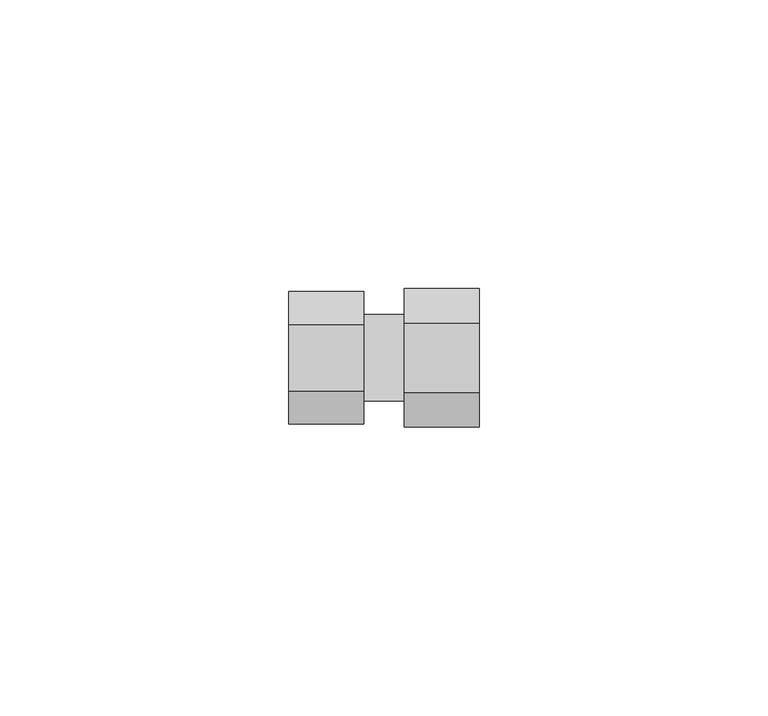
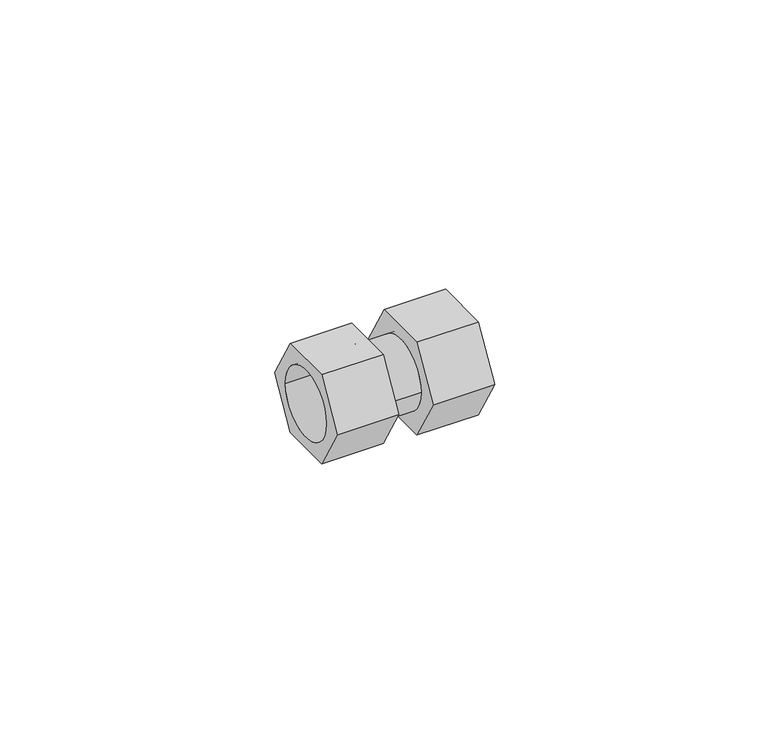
"""IFC4 building model written with IfcOpenShell, lengths in millimetres: pipe fitting geometry, БИР ПЕКС_КМП_Соединитель_Резьба_Внутренняя : Соединитель прямой с внутренней резьбой_КМП."""

from ifc_helpers import new_model, si_unit, point, frame, origin, origin_2d, place, context, project, spatial, polyline, circle_curve, trimmed, segment, composite_curve, outline, extrude, source, transform, mapped, element, save


def pipe_fitting_b8bb4d7d(model_context):
    return source(origin(), model_context, "Body", "SweptSolid", [
        extrude(outline(polyline([(-5.75, -9.9592921), (-11.5, 0.0), (-5.75, 9.9592921), (5.75, 9.9592921), (11.5, 0.0), (5.75, -9.9592921), (-5.75, -9.9592921)]), holes=[composite_curve([segment(trimmed(circle_curve(origin_2d(), 7.5), [point((-7.5, 0.0))], [point((7.5, 0.0))], True, "CARTESIAN"), True, "CONTINUOUS"), segment(trimmed(circle_curve(origin_2d(), 7.5), [point((7.5, 0.0))], [point((-7.5, 0.0))], True, "CARTESIAN"), True, "CONTINUOUS")], self_intersect=False)]), frame((-20.0, 0.0, 0.0), z_axis=(1.0, 0.0, 0.0), x_axis=(0.0, 1.0, 0.0)), (0.0, 0.0, 1.0), 13.0),
        extrude(outline(polyline([(-6.0, -10.3923048), (-12.0, 0.0), (-6.0, 10.3923048), (6.0, 10.3923048), (12.0, 0.0), (6.0, -10.3923048), (-6.0, -10.3923048)]), holes=[composite_curve([segment(trimmed(circle_curve(origin_2d(), 7.5), [point((-7.5, 0.0))], [point((7.5, 0.0))], True, "CARTESIAN"), True, "CONTINUOUS"), segment(trimmed(circle_curve(origin_2d(), 7.5), [point((7.5, 0.0))], [point((-7.5, 0.0))], True, "CARTESIAN"), True, "CONTINUOUS")], self_intersect=False)]), frame((0.0, 0.0, 0.0), z_axis=(1.0, 0.0, 0.0), x_axis=(0.0, 1.0, 0.0)), (0.0, 0.0, 1.0), 13.0),
        extrude(outline(composite_curve([segment(trimmed(circle_curve(origin_2d(), 7.5), [point((-7.5, 0.0))], [point((7.5, 0.0))], False, "CARTESIAN"), True, "CONTINUOUS"), segment(trimmed(circle_curve(origin_2d(), 7.5), [point((7.5, 0.0))], [point((-7.5, 0.0))], False, "CARTESIAN"), True, "CONTINUOUS")], self_intersect=False)), frame((-7.0, 0.0, 0.0), z_axis=(1.0, 0.0, 0.0), x_axis=(0.0, 1.0, 0.0)), (0.0, 0.0, 1.0), 7.0),
    ])


if __name__ == "__main__":
    model = new_model("IFC4")
    model_context = context("Model", 3, world=origin())
    ifc_project = project(units=[si_unit("LENGTHUNIT", "METRE", prefix="MILLI")], contexts=[model_context])
    site = spatial("IfcSite", under=ifc_project)
    building = spatial("IfcBuilding", under=site)
    placement = place(None, origin())
    pipe_fitting_shape = pipe_fitting_b8bb4d7d(model_context)
    element("IfcPipeFitting", 1, ObjectType="БИР ПЕКС_КМП_Соединитель_Резьба_Внутренняя : Соединитель прямой с внутренней резьбой_КМП", at=placement, inside=building, context=model_context, shape_type="MappedRepresentation", body=[
        mapped(pipe_fitting_shape, transform((0.0, 0.0, 0.0), x_axis=(1.0, 0.0, 0.0), y_axis=(0.0, 1.0, 0.0), z_axis=(0.0, 0.0, 1.0))),
    ])
    save(model, "model.ifc")
